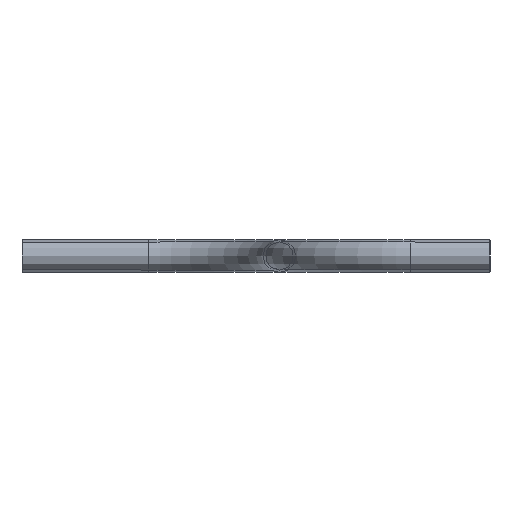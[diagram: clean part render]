
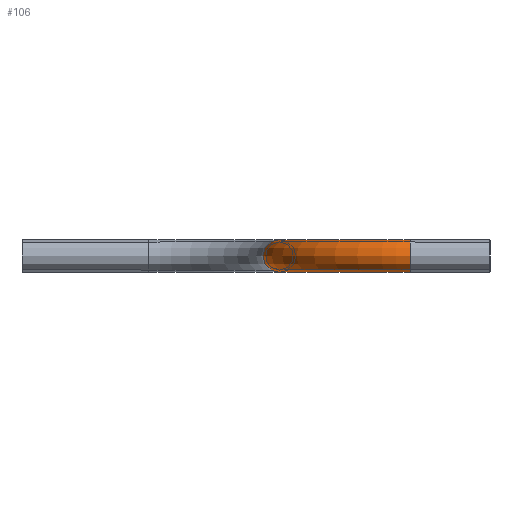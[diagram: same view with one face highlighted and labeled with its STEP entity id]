
A CAD part, left-side view. The second image highlights one B-rep face of the part: STEP entity #106.
In plain terms, the highlighted toroidal (fillet/blend) face has major radius 14 mm and minor radius 1.75 mm.
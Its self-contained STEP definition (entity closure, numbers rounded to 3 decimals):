
#98=TOROIDAL_SURFACE('',#241,14.,1.75);
#106=ADVANCED_FACE('',(#128,#129),#98,.T.);
#128=FACE_BOUND('',#152,.T.);
#129=FACE_BOUND('',#153,.T.);
#152=EDGE_LOOP('',(#176));
#153=EDGE_LOOP('',(#177));
#176=ORIENTED_EDGE('',*,*,#206,.F.);
#177=ORIENTED_EDGE('',*,*,#208,.T.);
#194=VERTEX_POINT('',#310);
#196=VERTEX_POINT('',#315);
#206=EDGE_CURVE('',#194,#194,#218,.T.);
#208=EDGE_CURVE('',#196,#196,#220,.T.);
#218=CIRCLE('',#232,1.75);
#220=CIRCLE('',#235,1.75);
#232=AXIS2_PLACEMENT_3D('',#309,#261,#262);
#235=AXIS2_PLACEMENT_3D('',#314,#267,#268);
#241=AXIS2_PLACEMENT_3D('',#324,#279,#280);
#261=DIRECTION('',(1.,0.,0.));
#262=DIRECTION('',(0.,0.,1.));
#267=DIRECTION('',(0.,1.,0.));
#268=DIRECTION('',(0.,0.,1.));
#279=DIRECTION('',(0.,0.,1.));
#280=DIRECTION('',(1.,0.,0.));
#309=CARTESIAN_POINT('',(14.,30.,0.));
#310=CARTESIAN_POINT('',(14.,30.,1.75));
#314=CARTESIAN_POINT('',(0.,16.,0.));
#315=CARTESIAN_POINT('',(0.,16.,1.75));
#324=CARTESIAN_POINT('',(14.,16.,0.));
